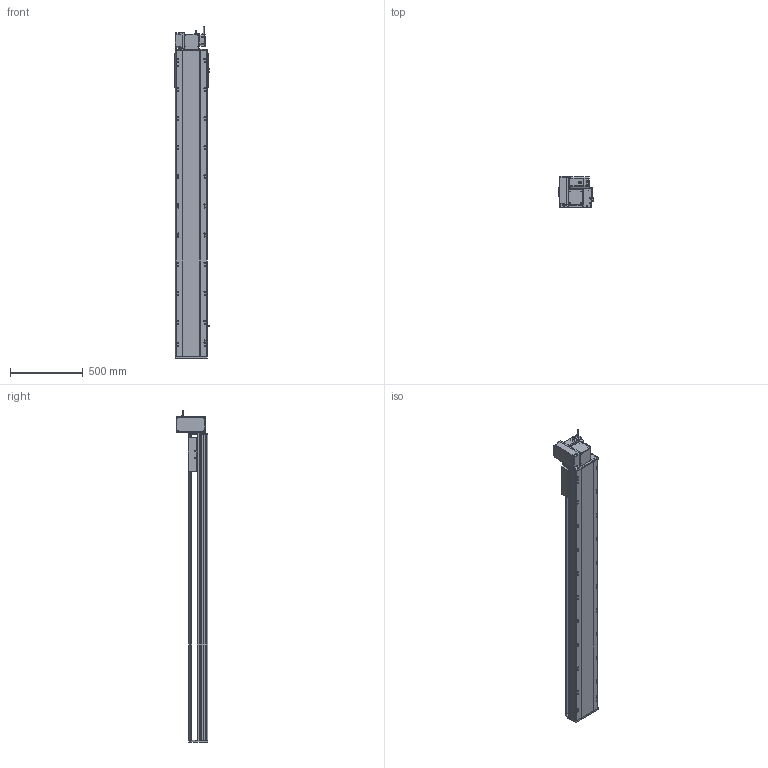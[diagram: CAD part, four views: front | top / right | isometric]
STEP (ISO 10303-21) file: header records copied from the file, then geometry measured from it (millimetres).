
FILE_DESCRIPTION (( 'STEP AP214' ), '1' );
FILE_NAME ('RTB22S-XX-1750-LW-M75-C4.STEP', '2025-12-12T05:59:15', ( '' ), ( '' ), 'SwSTEP 2.0', 'SolidWorks 2018', '' );
FILE_SCHEMA (( 'AUTOMOTIVE_DESIGN' ));
Length unit declared in the file: millimetre
Products named in the file (14): OMRON EE-SX672 传感器^RTB22S-XX-XX-LW-M75-C4; RTB22S-GY-014--々湍釱^RTB22S-LW-々湍釱蚾饜_RTB22S-XX-XX-LW-M75-C4; RTB22S-GY-008-M75--萇儂啣^RTB22S-LW-々湍釱蚾饜_RTB22S-XX-XX-LW-M75-C4; RTB22S-L-004賑釱^RTB22S-XX-XX-LW-M75-C4; RTB22S-GY-017P^RTB22S-LW-々湍釱蚾饜_RTB22S-XX-XX-LW-M75-C4; RTB22S-XX-1750-LW-M75-C4; 750W萇儂^RTB22S-XX-XX-LW-M75-C4; RTB22S-L-011菁釱^RTB22S-XX-XX-LW-M75-C4; RTB22S-GY-005P^RTB22S-LW-々湍釱蚾饜_RTB22S-XX-XX-LW-M75-C4; RTB22S-GY-001耜裔^RTB22S-XX-XX-LW-M75-C4; RTB22S-LW-々湍釱蚾饜^RTB22S-XX-XX-LW-M75-C4; RTB22S-GY-007奻裔^RTB22S-XX-XX-LW-M75-C4; RTB22S-GY-018P^RTB22S-LW-々湍釱蚾饜_RTB22S-XX-XX-LW-M75-C4; RTH22-GY-013外置感应片^RTB22S-XX-XX-LW-M75-C4
Assembly tree (16 placements, depth 3):
  RTB22S-XX-1750-LW-M75-C4
    RTB22S-L-011菁釱^RTB22S-XX-XX-LW-M75-C4
    RTB22S-GY-001耜裔^RTB22S-XX-XX-LW-M75-C4
    750W萇儂^RTB22S-XX-XX-LW-M75-C4
    RTB22S-GY-007奻裔^RTB22S-XX-XX-LW-M75-C4
    RTB22S-L-004賑釱^RTB22S-XX-XX-LW-M75-C4
    RTH22-GY-013外置感应片^RTB22S-XX-XX-LW-M75-C4
    OMRON EE-SX672 传感器^RTB22S-XX-XX-LW-M75-C4  x3
    RTB22S-LW-々湍釱蚾饜^RTB22S-XX-XX-LW-M75-C4
      RTB22S-GY-014--々湍釱^RTB22S-LW-々湍釱蚾饜_RTB22S-XX-XX-LW-M75-C4
      RTB22S-GY-017P^RTB22S-LW-々湍釱蚾饜_RTB22S-XX-XX-LW-M75-C4  x2
      RTB22S-GY-005P^RTB22S-LW-々湍釱蚾饜_RTB22S-XX-XX-LW-M75-C4
      RTB22S-GY-008-M75--萇儂啣^RTB22S-LW-々湍釱蚾饜_RTB22S-XX-XX-LW-M75-C4
      RTB22S-GY-018P^RTB22S-LW-々湍釱蚾饜_RTB22S-XX-XX-LW-M75-C4
Bounding box: 238.5 x 215.5 x 2282.2 mm (x, y, z)
Volume: 30027889.6 mm3; surface area: 3089696.5 mm2
Topology: 15 solids, 15 shells, 2037 faces, 5536 edges, 3542 vertices
Faces by surface type: plane 921, cylinder 658, bspline 296, cone 150, sphere 8, torus 4
Entity records: 54742 total; most frequent: CARTESIAN_POINT 15616, ORIENTED_EDGE 7836, DIRECTION 7592, EDGE_CURVE 3918, AXIS2_PLACEMENT_3D 2698, VERTEX_POINT 2546, VECTOR 2196, LINE 2196
